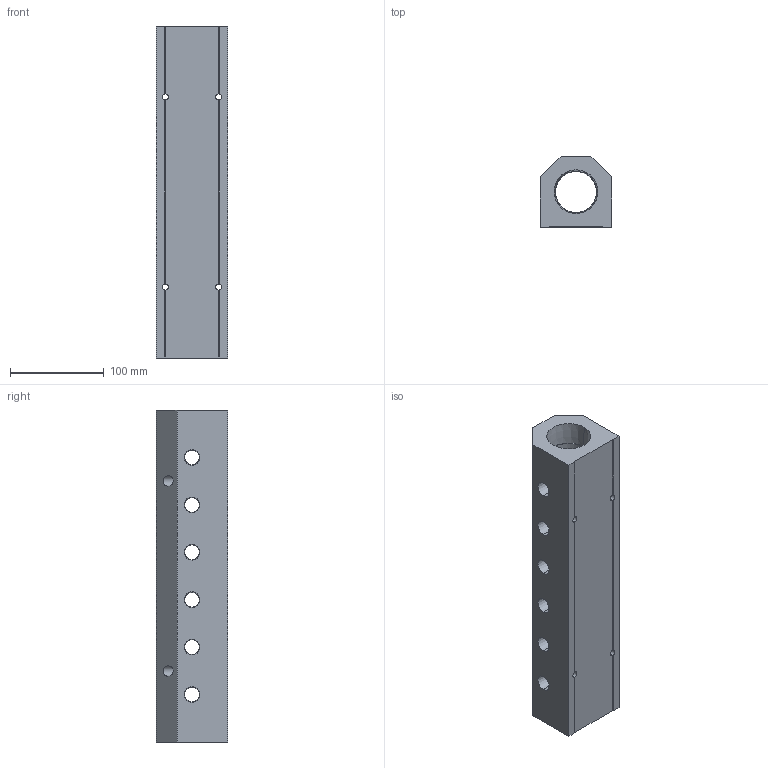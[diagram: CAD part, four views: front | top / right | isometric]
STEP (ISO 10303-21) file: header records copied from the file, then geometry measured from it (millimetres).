
FILE_DESCRIPTION (( 'STEP AP214' ), '1' );
FILE_NAME ('ALM6ACE-N6N24-355R.step', '2022-02-07T07:58:07', ( '' ), ( '' ), 'SwSTEP 2.0', 'SolidWorks 2020', '' );
FILE_SCHEMA (( 'AUTOMOTIVE_DESIGN' ));
Length unit declared in the file: millimetre
Products named in the file (1): ALM6ACE-N6N24-355R
Bounding box: 76.2 x 76.2 x 355 mm (x, y, z)
Volume: 1258530.8 mm3; surface area: 169138 mm2
Topology: 1 solids, 1 shells, 344 faces, 934 edges, 612 vertices
Faces by surface type: plane 216, bspline 70, cone 40, cylinder 18
Entity records: 20027 total; most frequent: CARTESIAN_POINT 8501, ORIENTED_EDGE 1868, DIRECTION 1364, EDGE_CURVE 934, LINE 670, VECTOR 670, VERTEX_POINT 612, EDGE_LOOP 410
